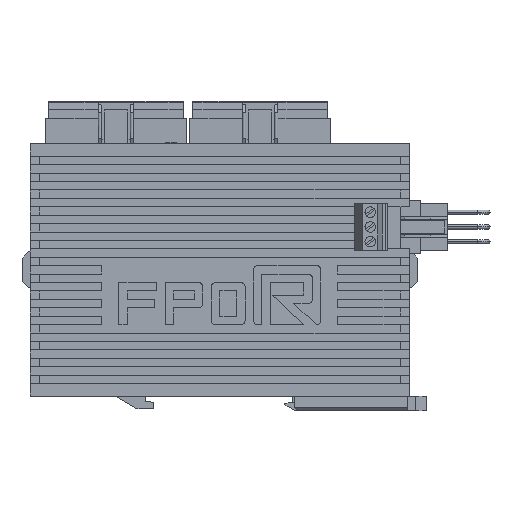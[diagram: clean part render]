
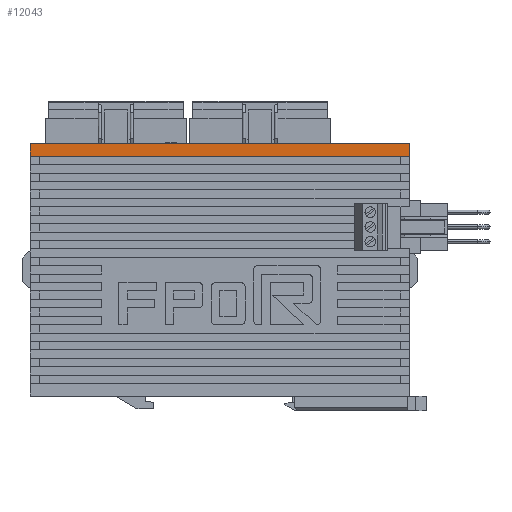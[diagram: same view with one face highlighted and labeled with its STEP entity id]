
A CAD part, left-side view. The second image highlights one B-rep face of the part: STEP entity #12043.
In plain terms, the highlighted planar face has unit normal (-1, 0, 0).
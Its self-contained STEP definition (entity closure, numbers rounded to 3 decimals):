
#149 = VERTEX_POINT ( 'NONE', #16583 ) ;
#228 = VERTEX_POINT ( 'NONE', #16705 ) ;
#262 = EDGE_CURVE ( 'NONE', #149, #228, #16742, .T. ) ;
#11585 = VERTEX_POINT ( 'NONE', #36139 ) ;
#11630 = EDGE_CURVE ( 'NONE', #11647, #11585, #35698, .T. ) ;
#11647 = VERTEX_POINT ( 'NONE', #36229 ) ;
#11959 = ORIENTED_EDGE ( 'NONE', *, *, #12034, .F. ) ;
#11963 = ORIENTED_EDGE ( 'NONE', *, *, #12036, .F. ) ;
#12034 = EDGE_CURVE ( 'NONE', #228, #11585, #36848, .T. ) ;
#12036 = EDGE_CURVE ( 'NONE', #11647, #149, #36875, .T. ) ;
#12037 = EDGE_LOOP ( 'NONE', ( #12045, #11959, #12040, #11963 ) ) ;
#12040 = ORIENTED_EDGE ( 'NONE', *, *, #262, .F. ) ;
#12043 = ADVANCED_FACE ( 'NONE', ( #36874 ), #36931, .F. ) ;
#12045 = ORIENTED_EDGE ( 'NONE', *, *, #11630, .T. ) ;
#16583 = CARTESIAN_POINT ( 'NONE',  ( -12.5, -45., 60. ) ) ;
#16705 = CARTESIAN_POINT ( 'NONE',  ( -12.5, -45., 57. ) ) ;
#16742 = LINE ( 'NONE', #16806, #16804 ) ;
#16803 = DIRECTION ( 'NONE',  ( 0., 0., -1. ) ) ;
#16804 = VECTOR ( 'NONE', #16803, 1000. ) ;
#16806 = CARTESIAN_POINT ( 'NONE',  ( -12.5, -45., 60. ) ) ;
#35698 = LINE ( 'NONE', #36199, #36203 ) ;
#36139 = CARTESIAN_POINT ( 'NONE',  ( -12.5, 45., 57. ) ) ;
#36199 = CARTESIAN_POINT ( 'NONE',  ( -12.5, 45., 60. ) ) ;
#36203 = VECTOR ( 'NONE', #36218, 1000. ) ;
#36218 = DIRECTION ( 'NONE',  ( 0., 0., -1. ) ) ;
#36229 = CARTESIAN_POINT ( 'NONE',  ( -12.5, 45., 60. ) ) ;
#36848 = LINE ( 'NONE', #36880, #36878 ) ;
#36871 = DIRECTION ( 'NONE',  ( 0., -1., 0. ) ) ;
#36872 = VECTOR ( 'NONE', #36871, 1000. ) ;
#36873 = CARTESIAN_POINT ( 'NONE',  ( -12.5, 45., 60. ) ) ;
#36874 = FACE_OUTER_BOUND ( 'NONE', #12037, .T. ) ;
#36875 = LINE ( 'NONE', #36873, #36872 ) ;
#36877 = DIRECTION ( 'NONE',  ( 0., 1., 0. ) ) ;
#36878 = VECTOR ( 'NONE', #36877, 1000. ) ;
#36880 = CARTESIAN_POINT ( 'NONE',  ( -12.5, 45., 57. ) ) ;
#36921 = DIRECTION ( 'NONE',  ( 0., 1., 0. ) ) ;
#36922 = DIRECTION ( 'NONE',  ( 1., 0., 0. ) ) ;
#36923 = CARTESIAN_POINT ( 'NONE',  ( -12.5, 45., 60. ) ) ;
#36924 = AXIS2_PLACEMENT_3D ( 'NONE', #36923, #36922, #36921 ) ;
#36931 = PLANE ( 'NONE',  #36924 ) ;
